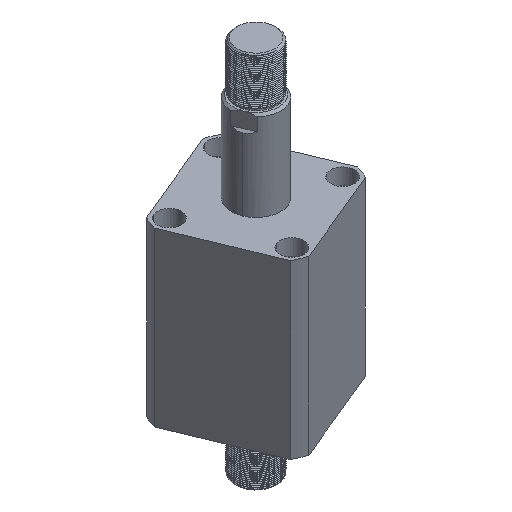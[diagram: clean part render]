
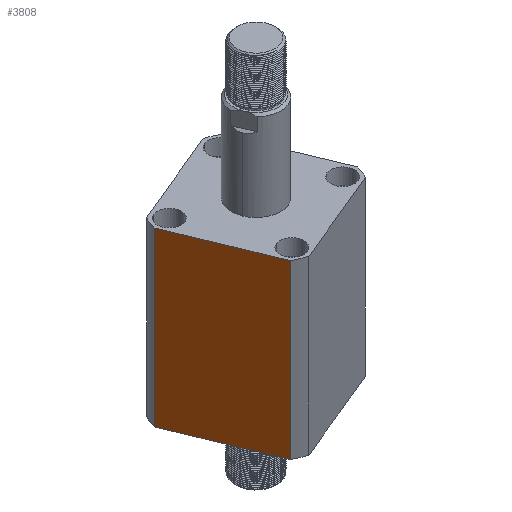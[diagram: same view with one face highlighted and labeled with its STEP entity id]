
A CAD part, isometric view. The second image highlights one B-rep face of the part: STEP entity #3808.
In plain terms, the highlighted planar face has unit normal (-0.924, -0.383, 0) as drawn and (0, 1, 0) by its records, which use the part's own axes.
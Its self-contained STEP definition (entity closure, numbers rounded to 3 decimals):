
#3136 = ORIENTED_EDGE ( 'NONE', *, *, #24481, .F. ) ;
#3808 = ADVANCED_FACE ( 'NONE', ( #25835 ), #17835, .F. ) ;
#4124 = AXIS2_PLACEMENT_3D ( 'NONE', #13782, #5723, #19861 ) ;
#4532 = VERTEX_POINT ( 'NONE', #9944 ) ;
#4861 = LINE ( 'NONE', #7201, #15647 ) ;
#4937 = ORIENTED_EDGE ( 'NONE', *, *, #19603, .F. ) ;
#5254 = ORIENTED_EDGE ( 'NONE', *, *, #13445, .F. ) ;
#5452 = VECTOR ( 'NONE', #15131, 1000. ) ;
#5723 = DIRECTION ( 'NONE',  ( 0., -1., 0. ) ) ;
#7201 = CARTESIAN_POINT ( 'NONE',  ( -57., 57., 0. ) ) ;
#7464 = EDGE_CURVE ( 'NONE', #17454, #4532, #4861, .T. ) ;
#7473 = DIRECTION ( 'NONE',  ( -1., 0., 0. ) ) ;
#7708 = EDGE_LOOP ( 'NONE', ( #5254, #14460, #4937, #3136 ) ) ;
#8644 = VECTOR ( 'NONE', #18594, 1000. ) ;
#8694 = VECTOR ( 'NONE', #7473, 1000. ) ;
#9768 = VERTEX_POINT ( 'NONE', #13090 ) ;
#9944 = CARTESIAN_POINT ( 'NONE',  ( -47.971, 57., 0. ) ) ;
#10795 = LINE ( 'NONE', #23118, #5452 ) ;
#10860 = CARTESIAN_POINT ( 'NONE',  ( -47.971, 57., 158. ) ) ;
#13090 = CARTESIAN_POINT ( 'NONE',  ( 47.971, 57., 158. ) ) ;
#13445 = EDGE_CURVE ( 'NONE', #17454, #9768, #19404, .T. ) ;
#13782 = CARTESIAN_POINT ( 'NONE',  ( -57., 57., 158. ) ) ;
#14460 = ORIENTED_EDGE ( 'NONE', *, *, #7464, .T. ) ;
#15131 = DIRECTION ( 'NONE',  ( 0., 0., -1. ) ) ;
#15647 = VECTOR ( 'NONE', #21340, 1000. ) ;
#17454 = VERTEX_POINT ( 'NONE', #19906 ) ;
#17835 = PLANE ( 'NONE',  #4124 ) ;
#18594 = DIRECTION ( 'NONE',  ( 0., 0., 1. ) ) ;
#19404 = LINE ( 'NONE', #24581, #8644 ) ;
#19603 = EDGE_CURVE ( 'NONE', #21575, #4532, #10795, .T. ) ;
#19861 = DIRECTION ( 'NONE',  ( 0., 0., -1. ) ) ;
#19906 = CARTESIAN_POINT ( 'NONE',  ( 47.971, 57., 0. ) ) ;
#20067 = LINE ( 'NONE', #23605, #8694 ) ;
#21340 = DIRECTION ( 'NONE',  ( -1., 0., 0. ) ) ;
#21575 = VERTEX_POINT ( 'NONE', #10860 ) ;
#23118 = CARTESIAN_POINT ( 'NONE',  ( -47.971, 57., -142. ) ) ;
#23605 = CARTESIAN_POINT ( 'NONE',  ( -57., 57., 158. ) ) ;
#24481 = EDGE_CURVE ( 'NONE', #9768, #21575, #20067, .T. ) ;
#24581 = CARTESIAN_POINT ( 'NONE',  ( 47.971, 57., -142. ) ) ;
#25835 = FACE_OUTER_BOUND ( 'NONE', #7708, .T. ) ;
